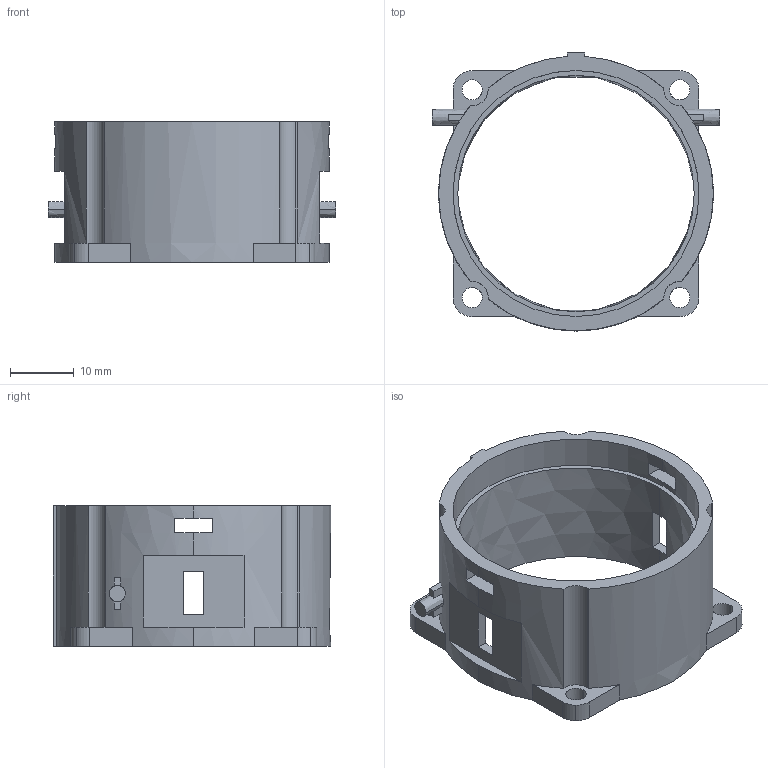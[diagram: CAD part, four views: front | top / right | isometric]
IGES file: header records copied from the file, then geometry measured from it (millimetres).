
Global section: file name: C:\Documents and Settings\Administrator\Desktop\Transfer Temp\transmissionhousing2.igs; native system: AutoDesk Inventor R2.0 ; preprocessor: AutoDesk Inventor Iges Exporter R2.0; author: No Author specified; organization: No Organization specified; date: 20011207.162147; units: millimetre
Bounding box: 45 x 43.5 x 22 mm (x, y, z)
Surface area: 7340.4 mm2 (no closed solid volume)
Topology: 0 solids, 0 shells, 103 faces, 620 edges, 620 vertices
Faces by surface type: bspline 70, revolution 33
